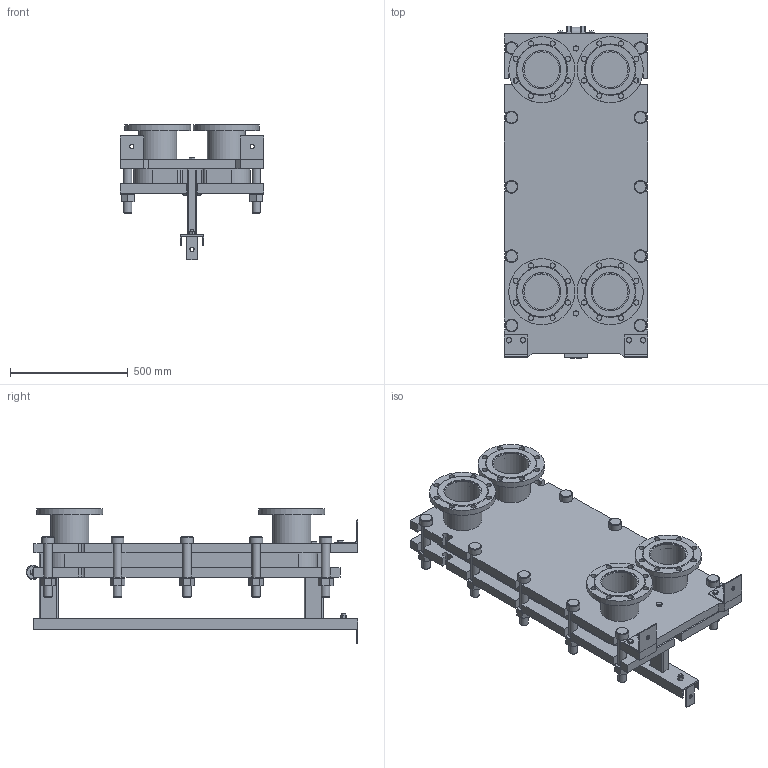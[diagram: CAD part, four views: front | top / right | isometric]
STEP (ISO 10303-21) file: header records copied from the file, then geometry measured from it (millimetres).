
FILE_DESCRIPTION(/* description */ (''),/* implementation_level */ '2;1');
FILE_NAME(/* name */ 'C:\Users\zhuro\Desktop\ENCO\TO\ЭН-041\ЭН-0,5-041-18-1.stp',/* time_stamp */ '2022-06-06T10:49:29+03:00',/* author */ ('zhuro'),/* organization */ (''),/* preprocessor_version */ 'ST-DEVELOPER v18.1',/* originating_system */ 'Autodesk Inventor 2022',/* authorisation */ '');
FILE_SCHEMA (('AUTOMOTIVE_DESIGN { 1 0 10303 214 3 1 1 }'));
Length unit declared in the file: millimetre
Products named in the file (1): ЭН-0,5-041-18-1
Bounding box: 610 x 1406.5 x 575 mm (x, y, z)
Volume: 109638157.1 mm3; surface area: 7216478.4 mm2
Topology: 52 solids, 52 shells, 711 faces, 1696 edges, 1094 vertices
Faces by surface type: plane 487, cylinder 177, cone 41, torus 6
Full cylindrical faces by diameter (mm): 8 x4, 10 x2, 16 x8, 18 x3, 22 x32, 36 x24, 50 x1, 54 x10, 60 x12, 151 x4, 161 x8, 280 x4
Entity records: 22667 total; most frequent: CARTESIAN_POINT 5230, DIRECTION 3644, ORIENTED_EDGE 3392, EDGE_CURVE 1696, AXIS2_PLACEMENT_3D 1272, LINE 1100, VECTOR 1100, VERTEX_POINT 1094
